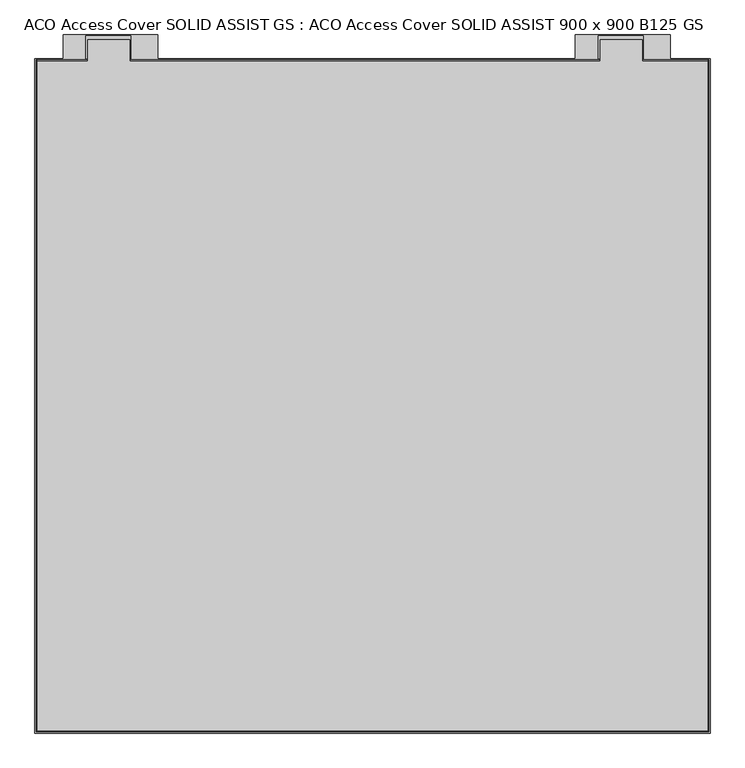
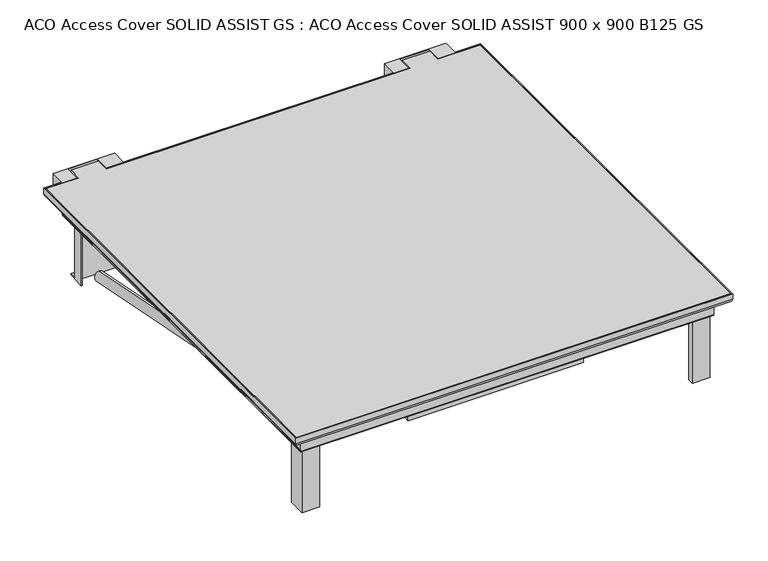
"""IFC4 building model written with IfcOpenShell, lengths in millimetres: proxy geometry, ACO Access Cover SOLID ASSIST GS : ACO Access Cover SOLID ASSIST 900 x 900 B125 GS."""

from ifc_helpers import new_model, si_unit, point, frame, origin, origin_2d, place, context, project, spatial, polyline, circle_curve, ellipse_curve, trimmed, segment, composite_curve, outline, extrude, source, transform, mapped, element, save
from ifc_brep_helpers import plane_surface, cylinder_surface, revolved_surface, advanced_brep


def aco_access_cover_solid_assist_gs_aco_access_cover_solid_656c4046(model_context):
    return source(origin(), model_context, "Body", "SolidModel", [
        extrude(outline(polyline([(494.5, 494.0), (494.5, -494.0), (-494.5, -494.0), (-494.5, 494.0), (-420.0, 494.0), (-420.0, 525.0), (-358.0, 525.0), (-358.0, 494.0), (336.0, 494.0), (336.0, 525.0), (398.0, 525.0), (398.0, 494.0), (494.5, 494.0)])), frame((0.0, 0.0, -5.0), z_axis=(0.0, 0.0, 1.0), x_axis=(1.0, 0.0, 0.0)), (0.0, 0.0, 1.0), 5.0),
        extrude(outline(composite_curve([segment(trimmed(circle_curve(origin_2d(), 11.4552822), [point((0.0, 11.4552822))], [point((0.0, -11.4552822))], False, "CARTESIAN"), True, "CONTINUOUS"), segment(trimmed(circle_curve(origin_2d(), 11.4552822), [point((0.0, -11.4552822))], [point((0.0, 11.4552822))], False, "CARTESIAN"), True, "CONTINUOUS")], self_intersect=False)), frame((-411.9, 425.5, -198.5), z_axis=(0.0, -0.9809579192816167, 0.19422039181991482), x_axis=(1.0, 0.0, 0.0)), (0.0, 0.0, 1.0), 862.4223153),
        advanced_brep(
        [(498.0, 497.5, -12.5), (498.0, 497.5, 0.0), (498.0, -497.5, 0.0), (498.0, -497.5, -12.5), (482.0, -481.5, -12.5), (482.0, 481.5, -12.5), (471.0, -470.5, -12.5), (471.0, 470.5, -12.5), (471.0, -470.5, -56.0), (471.0, 470.5, -56.0), (467.0, -466.5, -60.0), (467.0, 466.5, -60.0), (451.9, 451.4, -58.0), (451.9, 451.4, -60.0), (451.9, 427.4, -60.0), (451.9, 427.4, -210.0), (451.9, 424.4, -210.0), (451.9, 424.4, -60.0), (451.9, -424.4, -60.0), (451.9, -424.4, -210.0), (451.9, -427.4, -210.0), (451.9, -427.4, -60.0), (451.9, -451.4, -60.0), (451.9, -451.4, -58.0), (469.0, 468.5, -56.0), (467.0, 466.5, -58.0), (467.0, -466.5, -58.0), (469.0, -468.5, -56.0), (469.0, -468.5, -12.5), (469.0, 468.5, -12.5), (484.0, -483.5, -12.5), (484.0, 483.5, -12.5), (496.0, -495.5, -12.5), (496.0, 495.5, -12.5), (496.0, -495.5, 0.0), (496.0, 495.5, 0.0), (-498.0, -497.5, 0.0), (-498.0, -497.5, -12.5), (-482.0, -481.5, -12.5), (-471.0, -470.5, -12.5), (-471.0, -470.5, -56.0), (-467.0, -466.5, -60.0), (427.9, -451.4, -60.0), (427.9, -451.4, -210.0), (424.9, -451.4, -210.0), (424.9, -451.4, -60.0), (-424.9, -451.4, -60.0), (-424.9, -451.4, -210.0), (-427.9, -451.4, -210.0), (-427.9, -451.4, -60.0), (-451.9, -451.4, -60.0), (-451.9, -451.4, -58.0), (-467.0, -466.5, -58.0), (-469.0, -468.5, -56.0), (-469.0, -468.5, -12.5), (-397.5, -468.5, -12.5), (-397.5, -468.5, -55.0), (-351.5, -468.5, -55.0), (-351.5, -468.5, -12.5), (351.5, -468.5, -12.5), (351.5, -468.5, -55.0), (397.5, -468.5, -55.0), (397.5, -468.5, -12.5), (-484.0, -483.5, -12.5), (-496.0, -495.5, -12.5), (-496.0, -495.5, 0.0), (-498.0, 497.5, 0.0), (-498.0, 497.5, -12.5), (-482.0, 481.5, -12.5), (-471.0, 470.5, -12.5), (-471.0, 470.5, -56.0), (-467.0, 466.5, -60.0), (-451.9, -427.4, -60.0), (-451.9, -427.4, -210.0), (-451.9, -424.4, -210.0), (-451.9, -424.4, -60.0), (-451.9, 425.4, -60.0), (-451.9, 425.4, -207.0), (-451.9, 450.4, -207.0), (-451.9, 450.4, -60.0), (-451.9, 451.4, -60.0), (-451.9, 451.4, -58.0), (-467.0, 466.5, -58.0), (-469.0, 468.5, -56.0), (-469.0, 468.5, -12.5), (-484.0, 483.5, -12.5), (-496.0, 495.5, -12.5), (-496.0, 495.5, 0.0), (439.5, 497.5, 0.0), (439.5, 532.5, 0.0), (299.5, 532.5, 0.0), (299.5, 497.5, 0.0), (-316.5, 497.5, 0.0), (-316.5, 532.5, 0.0), (-456.5, 532.5, 0.0), (-456.5, 497.5, 0.0), (-423.0, 495.5, 0.0), (-423.0, 531.0, 0.0), (-356.5, 531.0, 0.0), (-356.5, 495.5, 0.0), (333.0, 495.5, 0.0), (333.0, 531.0, 0.0), (399.5, 531.0, 0.0), (399.5, 495.5, 0.0), (-456.5, 497.5, -12.5), (439.5, 497.5, -12.5), (299.5, 497.5, -12.5), (-316.5, 497.5, -12.5), (-423.0, 497.5, -12.5), (-423.0, 495.5, -17.7915026), (-356.5, 495.5, -17.7915026), (-356.5, 497.5, -12.5), (333.0, 497.5, -12.5), (333.0, 495.5, -17.7915026), (399.5, 495.5, -17.7915026), (399.5, 497.5, -12.5), (-322.0, 470.5, -56.0), (-322.0, 470.5, -34.0), (-326.0, 470.5, -34.0), (-326.0, 470.5, -56.0), (-412.0, 470.5, -56.0), (-412.0, 470.5, -34.0), (-416.0, 470.5, -34.0), (-416.0, 470.5, -56.0), (430.5, 470.5, -34.0), (430.5, 470.5, -55.5), (434.5, 470.5, -55.5), (434.5, 470.5, -34.0), (340.5, 470.5, -34.0000027), (340.5, 470.5, -55.5000027), (344.5, 470.5, -55.5000037), (344.5, 470.5, -34.0000027), (-416.0, 466.5, -60.0), (-322.0, 466.5, -60.0), (-412.0, 466.5, -60.0), (-326.0, 466.5, -60.0), (427.9, 451.4, -60.0), (427.9, 461.4, -60.0), (461.9, 461.4, -60.0), (461.9, 427.4, -60.0), (461.9, -427.4, -60.0), (461.9, -461.4, -60.0), (427.9, -461.4, -60.0), (-427.9, -461.4, -60.0), (-461.9, -461.4, -60.0), (-461.9, -427.4, -60.0), (-416.0, 452.4, -60.0), (-453.9, 452.4, -60.0), (-453.9, 425.4, -60.0), (-464.9, -424.4, -60.0), (-464.9, -464.4, -60.0), (-424.9, -464.4, -60.0), (424.9, -464.4, -60.0), (464.9, -464.4, -60.0), (464.9, -424.4, -60.0), (464.9, 424.4, -60.0), (464.9, 464.4, -60.0), (424.9, 464.4, -60.0), (424.9, 451.4, -60.0), (-316.9, 451.4, -60.0), (-316.9, 452.4, -60.0), (-322.0, 452.4, -60.0), (-412.0, 452.4, -60.0), (-326.0, 452.4, -60.0), (424.9, 451.4, -210.0), (427.9, 451.4, -210.0), (399.5, 495.5, -12.5), (333.0, 495.5, -12.5), (-356.5, 495.5, -12.5), (-423.0, 495.5, -12.5), (399.5, 531.0, -31.0), (333.0, 531.0, -31.0), (333.0, 497.5, -31.0), (399.5, 497.5, -31.0), (-356.5, 531.0, -31.0), (-423.0, 531.0, -31.0), (-423.0, 497.5, -31.0), (-356.5, 497.5, -31.0), (-464.9, -424.4, -210.0), (-461.9, -427.4, -210.0), (-461.9, -461.4, -210.0), (-427.9, -461.4, -210.0), (-424.9, -464.4, -210.0), (-464.9, -464.4, -210.0), (464.9, -424.4, -210.0), (464.9, -464.4, -210.0), (424.9, -464.4, -210.0), (427.9, -461.4, -210.0), (461.9, -461.4, -210.0), (461.9, -427.4, -210.0), (464.9, 424.4, -210.0), (461.9, 427.4, -210.0), (461.9, 461.4, -210.0), (427.9, 461.4, -210.0), (424.9, 464.4, -210.0), (464.9, 464.4, -210.0), (-456.5, 497.5, -34.0), (-456.5, 532.5, -34.0), (-316.5, 532.5, -34.0), (-316.5, 497.5, -34.0), (-322.0, 497.5, -34.0), (-322.0, 523.9, -34.0), (-326.0, 523.9, -34.0), (-326.0, 497.5, -34.0), (-412.0, 497.5, -34.0), (-412.0, 523.9, -34.0), (-416.0, 523.9, -34.0), (-416.0, 497.5, -34.0), (299.5, 497.5, -34.0), (299.5, 532.5, -34.0), (439.5, 532.5, -34.0), (439.5, 497.5, -34.0), (434.5, 497.5, -34.0), (434.5, 524.0, -34.0), (430.5, 524.0, -34.0), (430.5, 497.5, -34.0), (344.5, 497.5, -34.0), (344.5, 524.0000077, -34.0), (340.5, 524.0000077, -34.0), (340.5, 497.5, -34.0), (430.5, 524.0, -49.0), (430.5, 509.1806559, -46.771067), (430.5, 507.9745716, -36.8440654), (430.5, 483.1570676, -39.8592762), (430.5, 484.3631519, -49.7862777), (434.5, 524.0, -49.0), (434.5, 509.1806559, -46.771067), (434.5, 484.3631519, -49.7862777), (434.5, 483.1570676, -39.8592762), (434.5, 507.9745716, -36.8440654), (340.5, 524.0000077, -49.0000027), (340.5, 509.1806636, -46.7710697), (340.5, 507.9745793, -36.8440681), (340.5, 483.1570753, -39.8592789), (340.5, 484.3631596, -49.7862805), (344.5, 524.0000077, -49.0000027), (344.5, 509.1806636, -46.7710697), (344.5, 484.3631596, -49.7862805), (344.5, 483.1570753, -39.8592789), (344.5, 507.9745793, -36.8440681), (-449.9, 450.4, -210.0), (-449.9, 472.4, -210.0), (-316.9, 472.4, -210.0), (-316.9, 450.4, -210.0), (-316.9, 472.4, -207.0), (-449.9, 472.4, -207.0), (-449.9, 452.4, -207.0), (-316.9, 452.4, -207.0), (-316.9, 450.4, -60.0), (-449.9, 450.4, -207.0), (-453.9, 425.4, -207.0), (-453.9, 452.4, -207.0), (-416.0, 452.4, -206.5), (-412.0, 452.4, -206.5), (-326.0, 452.4, -206.5), (-322.0, 452.4, -206.5), (-412.0, 467.4, -206.5), (-412.0, 523.9, -82.0), (-412.0, 483.6059623, -134.492034), (-412.0, 465.3936264, -126.226998), (-412.0, 488.1224754, -76.1430742), (-412.0, 506.3348113, -84.4081102), (-416.0, 523.9, -82.0), (-416.0, 467.4, -206.5), (-416.0, 483.6059623, -134.492034), (-416.0, 506.3348113, -84.4081102), (-416.0, 488.1224754, -76.1430742), (-416.0, 465.3936264, -126.226998), (-322.0, 523.9, -82.0), (-322.0, 467.4, -206.5), (-322.0, 483.6059623, -134.492034), (-322.0, 465.3936264, -126.226998), (-322.0, 488.1224754, -76.1430742), (-322.0, 506.3348113, -84.4081102), (-326.0, 523.9, -82.0), (-326.0, 467.4, -206.5), (-326.0, 483.6059623, -134.492034), (-326.0, 506.3348113, -84.4081102), (-326.0, 488.1224754, -76.1430742), (-326.0, 465.3936264, -126.226998), (-351.5, -438.5, -55.0), (-397.5, -438.5, -55.0), (397.5, -438.5, -55.0), (351.5, -438.5, -55.0), (-351.5, -438.5, -5.0), (-397.5, -438.5, -5.0), (-397.5, -468.5, -5.0), (-351.5, -468.5, -5.0), (397.5, -438.5, -5.0), (351.5, -438.5, -5.0), (351.5, -468.5, -5.0), (397.5, -468.5, -5.0)],
        [
            (0, 1),
            (1, 2),
            (2, 3),
            (3, 0),
            (3, 4, ellipse_curve(frame((490.0, -489.5, -12.5), z_axis=(0.7071067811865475, 0.7071067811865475, 0.0), x_axis=(-0.7071067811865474, 0.7071067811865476, 0.0)), 11.3137085, 8.0)),
            (4, 5),
            (5, 0, ellipse_curve(frame((490.0, 489.5, -12.5), z_axis=(0.7071067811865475, -0.7071067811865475, 0.0), x_axis=(0.7071067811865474, 0.7071067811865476, 0.0)), 11.3137085, 8.0)),
            (4, 6, ellipse_curve(frame((476.5, -476.0, -12.5), z_axis=(-0.7071067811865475, -0.7071067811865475, 0.0), x_axis=(0.7071067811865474, -0.7071067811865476, 0.0)), 7.7781746, 5.5)),
            (6, 7),
            (7, 5, ellipse_curve(frame((476.5, 476.0, -12.5), z_axis=(-0.7071067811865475, 0.7071067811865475, 0.0), x_axis=(-0.7071067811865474, -0.7071067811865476, 0.0)), 7.7781746, 5.5)),
            (6, 8),
            (8, 9),
            (9, 7),
            (8, 10, ellipse_curve(frame((467.0, -466.5, -56.0), z_axis=(0.7071067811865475, 0.7071067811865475, 0.0), x_axis=(-0.7071067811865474, 0.7071067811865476, 0.0)), 5.6568542, 4.0)),
            (10, 11),
            (11, 9, ellipse_curve(frame((467.0, 466.5, -56.0), z_axis=(0.7071067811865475, -0.7071067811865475, 0.0), x_axis=(0.7071067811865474, 0.7071067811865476, 0.0)), 5.6568542, 4.0)),
            (12, 13),
            (13, 14),
            (14, 15),
            (15, 16),
            (16, 17),
            (17, 18),
            (18, 19),
            (19, 20),
            (20, 21),
            (21, 22),
            (22, 23),
            (23, 12),
            (24, 25, ellipse_curve(frame((467.0, 466.5, -56.0), z_axis=(-0.7071067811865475, 0.7071067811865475, 0.0), x_axis=(-0.7071067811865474, -0.7071067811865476, 0.0)), 2.8284271, 2.0)),
            (25, 26),
            (26, 27, ellipse_curve(frame((467.0, -466.5, -56.0), z_axis=(-0.7071067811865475, -0.7071067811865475, 0.0), x_axis=(0.7071067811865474, -0.7071067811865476, 0.0)), 2.8284271, 2.0)),
            (27, 24),
            (27, 28),
            (28, 29),
            (29, 24),
            (28, 30, ellipse_curve(frame((476.5, -476.0, -12.5), z_axis=(0.7071067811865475, 0.7071067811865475, 0.0), x_axis=(-0.7071067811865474, 0.7071067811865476, 0.0)), 10.6066017, 7.5)),
            (30, 31),
            (31, 29, ellipse_curve(frame((476.5, 476.0, -12.5), z_axis=(0.7071067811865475, -0.7071067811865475, 0.0), x_axis=(0.7071067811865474, 0.7071067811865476, 0.0)), 10.6066017, 7.5)),
            (30, 32, ellipse_curve(frame((490.0, -489.5, -12.5), z_axis=(-0.7071067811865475, -0.7071067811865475, 0.0), x_axis=(0.7071067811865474, -0.7071067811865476, 0.0)), 8.4852814, 6.0)),
            (32, 33),
            (33, 31, ellipse_curve(frame((490.0, 489.5, -12.5), z_axis=(-0.7071067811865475, 0.7071067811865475, 0.0), x_axis=(-0.7071067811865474, -0.7071067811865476, 0.0)), 8.4852814, 6.0)),
            (32, 34),
            (34, 35),
            (35, 33),
            (2, 36),
            (36, 37),
            (37, 3),
            (37, 38, ellipse_curve(frame((-490.0, -489.5, -12.5), z_axis=(0.7071067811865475, -0.7071067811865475, 0.0), x_axis=(0.7071067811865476, 0.7071067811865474, 0.0)), 11.3137085, 8.0)),
            (38, 4),
            (38, 39, ellipse_curve(frame((-476.5, -476.0, -12.5), z_axis=(-0.7071067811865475, 0.7071067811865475, 0.0), x_axis=(-0.7071067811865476, -0.7071067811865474, 0.0)), 7.7781746, 5.5)),
            (39, 6),
            (39, 40),
            (40, 8),
            (40, 41, ellipse_curve(frame((-467.0, -466.5, -56.0), z_axis=(0.7071067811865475, -0.7071067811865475, 0.0), x_axis=(0.7071067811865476, 0.7071067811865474, 0.0)), 5.6568542, 4.0)),
            (41, 10),
            (22, 42),
            (42, 43),
            (43, 44),
            (44, 45),
            (45, 46),
            (46, 47),
            (47, 48),
            (48, 49),
            (49, 50),
            (50, 51),
            (51, 23),
            (26, 52),
            (52, 53, ellipse_curve(frame((-467.0, -466.5, -56.0), z_axis=(-0.7071067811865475, 0.7071067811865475, 0.0), x_axis=(-0.7071067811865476, -0.7071067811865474, 0.0)), 2.8284271, 2.0)),
            (53, 27),
            (53, 54),
            (54, 55),
            (55, 56),
            (56, 57),
            (57, 58),
            (58, 59),
            (59, 60),
            (60, 61),
            (61, 62),
            (62, 28),
            (62, 59),
            (58, 55),
            (54, 63, ellipse_curve(frame((-476.5, -476.0, -12.5), z_axis=(0.7071067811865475, -0.7071067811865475, 0.0), x_axis=(0.7071067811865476, 0.7071067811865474, 0.0)), 10.6066017, 7.5)),
            (63, 30),
            (63, 64, ellipse_curve(frame((-490.0, -489.5, -12.5), z_axis=(-0.7071067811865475, 0.7071067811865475, 0.0), x_axis=(-0.7071067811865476, -0.7071067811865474, 0.0)), 8.4852814, 6.0)),
            (64, 32),
            (64, 65),
            (65, 34),
            (36, 66),
            (66, 67),
            (67, 37),
            (67, 68, ellipse_curve(frame((-490.0, 489.5, -12.5), z_axis=(-0.7071067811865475, -0.7071067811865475, 0.0), x_axis=(0.7071067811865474, -0.7071067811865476, 0.0)), 11.3137085, 8.0)),
            (68, 38),
            (68, 69, ellipse_curve(frame((-476.5, 476.0, -12.5), z_axis=(0.7071067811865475, 0.7071067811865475, 0.0), x_axis=(-0.7071067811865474, 0.7071067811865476, 0.0)), 7.7781746, 5.5)),
            (69, 39),
            (69, 70),
            (70, 40),
            (70, 71, ellipse_curve(frame((-467.0, 466.5, -56.0), z_axis=(-0.7071067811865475, -0.7071067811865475, 0.0), x_axis=(0.7071067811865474, -0.7071067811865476, 0.0)), 5.6568542, 4.0)),
            (71, 41),
            (50, 72),
            (72, 73),
            (73, 74),
            (74, 75),
            (75, 76),
            (76, 77),
            (77, 78),
            (78, 79),
            (79, 80),
            (80, 81),
            (81, 51),
            (52, 82),
            (82, 83, ellipse_curve(frame((-467.0, 466.5, -56.0), z_axis=(0.7071067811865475, 0.7071067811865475, 0.0), x_axis=(-0.7071067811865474, 0.7071067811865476, 0.0)), 2.8284271, 2.0)),
            (83, 53),
            (83, 84),
            (84, 54),
            (84, 85, ellipse_curve(frame((-476.5, 476.0, -12.5), z_axis=(-0.7071067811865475, -0.7071067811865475, 0.0), x_axis=(0.7071067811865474, -0.7071067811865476, 0.0)), 10.6066017, 7.5)),
            (85, 63),
            (85, 86, ellipse_curve(frame((-490.0, 489.5, -12.5), z_axis=(0.7071067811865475, 0.7071067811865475, 0.0), x_axis=(-0.7071067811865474, 0.7071067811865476, 0.0)), 8.4852814, 6.0)),
            (86, 64),
            (86, 87),
            (87, 65),
            (1, 88),
            (88, 89),
            (89, 90),
            (90, 91),
            (91, 92),
            (92, 93),
            (93, 94),
            (94, 95),
            (95, 66),
            (87, 96),
            (96, 97),
            (97, 98),
            (98, 99),
            (99, 100),
            (100, 101),
            (101, 102),
            (102, 103),
            (103, 35),
            (95, 104),
            (104, 67),
            (0, 105),
            (105, 88),
            (91, 106),
            (106, 107),
            (107, 92),
            (5, 68),
            (104, 108),
            (108, 109, circle_curve(frame((-423.0, 489.5, -12.5), z_axis=(-1.0, 0.0, 0.0), x_axis=(0.0, 1.0, 0.0)), 8.0)),
            (109, 110),
            (110, 111, circle_curve(frame((-356.5, 489.5, -12.5), z_axis=(1.0, 0.0, 0.0), x_axis=(0.0, 1.0, 0.0)), 8.0)),
            (111, 107),
            (106, 112),
            (112, 113, circle_curve(frame((333.0, 489.5, -12.5), z_axis=(-1.0, 0.0, 0.0), x_axis=(0.0, 1.0, 0.0)), 8.0)),
            (113, 114),
            (114, 115, circle_curve(frame((399.5, 489.5, -12.5), z_axis=(1.0, 0.0, 0.0), x_axis=(0.0, 1.0, 0.0)), 8.0)),
            (115, 105),
            (7, 69),
            (9, 116),
            (116, 117),
            (117, 118),
            (118, 119),
            (119, 120),
            (120, 121),
            (121, 122),
            (122, 123),
            (123, 70),
            (124, 125),
            (125, 126),
            (126, 127),
            (127, 124),
            (128, 129),
            (129, 130),
            (130, 131),
            (131, 128),
            (123, 132, circle_curve(frame((-416.0, 466.5, -56.0), z_axis=(-1.0, 0.0, 0.0), x_axis=(0.0, 1.0, 0.0)), 4.0)),
            (132, 71),
            (11, 133),
            (133, 116, circle_curve(frame((-322.0, 466.5, -56.0), z_axis=(1.0, 0.0, 0.0), x_axis=(0.0, 1.0, 0.0)), 4.0)),
            (134, 120, circle_curve(frame((-412.0, 466.5, -56.0), z_axis=(1.0, 0.0, 0.0), x_axis=(0.0, 1.0, 0.0)), 4.0)),
            (119, 135, circle_curve(frame((-326.0, 466.5, -56.0), z_axis=(-1.0, 0.0, 0.0), x_axis=(0.0, 1.0, 0.0)), 4.0)),
            (135, 134),
            (13, 136),
            (136, 137),
            (137, 138),
            (138, 139),
            (139, 14),
            (21, 140),
            (140, 141),
            (141, 142),
            (142, 42),
            (49, 143),
            (143, 144),
            (144, 145),
            (145, 72),
            (132, 146),
            (146, 147),
            (147, 148),
            (148, 76),
            (75, 149),
            (149, 150),
            (150, 151),
            (151, 46),
            (45, 152),
            (152, 153),
            (153, 154),
            (154, 18),
            (17, 155),
            (155, 156),
            (156, 157),
            (157, 158),
            (158, 159),
            (159, 160),
            (160, 161),
            (161, 133),
            (162, 134),
            (135, 163),
            (163, 162),
            (12, 81),
            (80, 159),
            (158, 164),
            (164, 165),
            (165, 136),
            (25, 82),
            (24, 83),
            (29, 84),
            (31, 85),
            (33, 166),
            (166, 167),
            (167, 168),
            (168, 169),
            (169, 86),
            (169, 96),
            (99, 168),
            (167, 100),
            (103, 166),
            (170, 171),
            (171, 172),
            (172, 173),
            (173, 170),
            (174, 175),
            (175, 176),
            (176, 177),
            (177, 174),
            (170, 102),
            (101, 171),
            (167, 113),
            (112, 172),
            (166, 114),
            (173, 115),
            (174, 98),
            (97, 175),
            (169, 109),
            (108, 176),
            (168, 110),
            (177, 111),
            (178, 74),
            (73, 179),
            (179, 180),
            (180, 181),
            (181, 48),
            (47, 182),
            (182, 183),
            (183, 178),
            (184, 185),
            (185, 186),
            (186, 44),
            (43, 187),
            (187, 188),
            (188, 189),
            (189, 20),
            (19, 184),
            (190, 16),
            (15, 191),
            (191, 192),
            (192, 193),
            (193, 165),
            (164, 194),
            (194, 195),
            (195, 190),
            (183, 150),
            (149, 178),
            (182, 151),
            (181, 143),
            (180, 144),
            (179, 145),
            (154, 184),
            (189, 140),
            (188, 141),
            (187, 142),
            (186, 152),
            (185, 153),
            (195, 156),
            (155, 190),
            (194, 157),
            (193, 137),
            (192, 138),
            (191, 139),
            (196, 197),
            (197, 198),
            (198, 199),
            (199, 200),
            (200, 201),
            (201, 202),
            (202, 203),
            (203, 204),
            (204, 205),
            (205, 206),
            (206, 207),
            (207, 196),
            (208, 209),
            (209, 210),
            (210, 211),
            (211, 212),
            (212, 213),
            (213, 214),
            (214, 215),
            (215, 216),
            (216, 217),
            (217, 218),
            (218, 219),
            (219, 208),
            (198, 93),
            (107, 199),
            (197, 94),
            (196, 104),
            (207, 204),
            (203, 200),
            (211, 105),
            (106, 208),
            (219, 216),
            (215, 212),
            (210, 89),
            (209, 90),
            (214, 220),
            (220, 125),
            (124, 215),
            (221, 222, circle_curve(frame((430.5, 508.5776137, -41.8075662), z_axis=(1.0, 0.0, 0.0), x_axis=(0.0, 1.0, 0.0)), 5.0)),
            (222, 223),
            (223, 224, circle_curve(frame((430.5, 483.7601097, -44.8227769), z_axis=(1.0, 0.0, 0.0), x_axis=(0.0, 1.0, 0.0)), 5.0)),
            (224, 221),
            (126, 225),
            (225, 213),
            (212, 127),
            (226, 227),
            (227, 228, circle_curve(frame((434.5, 483.7601097, -44.8227769), z_axis=(-1.0, 0.0, 0.0), x_axis=(0.0, 1.0, 0.0)), 5.0)),
            (228, 229),
            (229, 226, circle_curve(frame((434.5, 508.5776137, -41.8075662), z_axis=(-1.0, 0.0, 0.0), x_axis=(0.0, 1.0, 0.0)), 5.0)),
            (220, 225),
            (224, 227),
            (226, 221),
            (223, 228),
            (222, 229),
            (218, 230),
            (230, 129),
            (128, 219),
            (231, 232, circle_curve(frame((340.5, 508.5776215, -41.8075689), z_axis=(1.0, 0.0, 0.0), x_axis=(0.0, 1.0, 0.0)), 5.0)),
            (232, 233),
            (233, 234, circle_curve(frame((340.5, 483.7601175, -44.8227797), z_axis=(1.0, 0.0, 0.0), x_axis=(0.0, 1.0, 0.0)), 5.0)),
            (234, 231),
            (130, 235),
            (235, 217),
            (216, 131),
            (236, 237),
            (237, 238, circle_curve(frame((344.5, 483.7601175, -44.8227797), z_axis=(-1.0, 0.0, 0.0), x_axis=(0.0, 1.0, 0.0)), 5.0)),
            (238, 239),
            (239, 236, circle_curve(frame((344.5, 508.5776215, -41.8075689), z_axis=(-1.0, 0.0, 0.0), x_axis=(0.0, 1.0, 0.0)), 5.0)),
            (230, 235),
            (234, 237),
            (236, 231),
            (233, 238),
            (232, 239),
            (240, 241),
            (241, 242),
            (242, 243),
            (243, 240),
            (244, 245),
            (245, 246),
            (246, 247),
            (247, 244),
            (243, 248),
            (248, 79),
            (78, 249),
            (249, 240),
            (242, 244),
            (247, 160),
            (159, 248),
            (241, 245),
            (249, 246),
            (77, 250),
            (250, 251),
            (251, 246),
            (250, 148),
            (147, 251),
            (146, 252),
            (252, 253),
            (253, 162),
            (163, 254),
            (254, 255),
            (255, 161),
            (253, 256),
            (256, 257),
            (257, 205),
            (204, 121),
            (258, 259, circle_curve(frame((-412.0, 474.4997944, -130.359516), z_axis=(-1.0, 0.0, 0.0), x_axis=(0.0, 1.0, 0.0)), 10.0)),
            (259, 260),
            (260, 261, circle_curve(frame((-412.0, 497.2286433, -80.2755922), z_axis=(-1.0, 0.0, 0.0), x_axis=(0.0, 1.0, 0.0)), 10.0)),
            (261, 258),
            (206, 262),
            (262, 263),
            (263, 252),
            (122, 207),
            (264, 265),
            (265, 266, circle_curve(frame((-416.0, 497.2286433, -80.2755922), z_axis=(1.0, 0.0, 0.0), x_axis=(0.0, 1.0, 0.0)), 10.0)),
            (266, 267),
            (267, 264, circle_curve(frame((-416.0, 474.4997944, -130.359516), z_axis=(1.0, 0.0, 0.0), x_axis=(0.0, 1.0, 0.0)), 10.0)),
            (263, 256),
            (262, 257),
            (258, 264),
            (267, 259),
            (266, 260),
            (265, 261),
            (268, 201),
            (200, 117),
            (255, 269),
            (269, 268),
            (270, 271, circle_curve(frame((-322.0, 474.4997944, -130.359516), z_axis=(-1.0, 0.0, 0.0), x_axis=(0.0, 1.0, 0.0)), 10.0)),
            (271, 272),
            (272, 273, circle_curve(frame((-322.0, 497.2286433, -80.2755922), z_axis=(-1.0, 0.0, 0.0), x_axis=(0.0, 1.0, 0.0)), 10.0)),
            (273, 270),
            (274, 275),
            (275, 254),
            (118, 203),
            (202, 274),
            (276, 277),
            (277, 278, circle_curve(frame((-326.0, 497.2286433, -80.2755922), z_axis=(1.0, 0.0, 0.0), x_axis=(0.0, 1.0, 0.0)), 10.0)),
            (278, 279),
            (279, 276, circle_curve(frame((-326.0, 474.4997944, -130.359516), z_axis=(1.0, 0.0, 0.0), x_axis=(0.0, 1.0, 0.0)), 10.0)),
            (268, 274),
            (275, 269),
            (270, 276),
            (279, 271),
            (278, 272),
            (277, 273),
            (280, 57),
            (56, 281),
            (281, 280),
            (282, 61),
            (60, 283),
            (283, 282),
            (284, 285),
            (285, 286),
            (286, 287),
            (287, 284),
            (288, 289),
            (289, 290),
            (290, 291),
            (291, 288),
            (281, 285),
            (284, 280),
            (55, 286),
            (58, 287),
            (283, 289),
            (288, 282),
            (59, 290),
            (62, 291),
        ],
        [
            plane_surface(frame((498.0, 497.5, 0.0), z_axis=(1.0, 0.0, 0.0), x_axis=(0.0, -1.0, 0.0))),
            cylinder_surface(frame((490.0, 497.5, -12.5), z_axis=(0.0, 1.0, 0.0), x_axis=(1.0, 0.0, 0.0)), 8.0),
            revolved_surface(polyline([(482.0, -481.500000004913, -12.5), (482.0, 481.500000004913, -12.5)]), (476.5, 497.5, -12.5), (0.0, -1.0, 0.0)),
            plane_surface(frame((471.0, 470.5, -12.5), z_axis=(1.0, 0.0, 0.0), x_axis=(0.0, -1.0, 0.0))),
            cylinder_surface(frame((467.0, 497.5, -56.0), z_axis=(0.0, 1.0, 0.0), x_axis=(1.0, 0.0, 0.0)), 4.0),
            plane_surface(frame((451.9, 451.4, -60.0), z_axis=(-1.0, 0.0, 0.0), x_axis=(0.0, -1.0, 0.0))),
            revolved_surface(polyline([(469.0, -468.5, -56.0), (469.0, 468.5, -56.0)]), (467.0, 497.5, -56.0), (0.0, -1.0, 0.0)),
            plane_surface(frame((469.0, 468.5, -56.0), z_axis=(-1.0, 0.0, 0.0), x_axis=(0.0, -1.0, 0.0))),
            cylinder_surface(frame((476.5, 497.5, -12.5), z_axis=(0.0, 1.0, 0.0), x_axis=(1.0, 0.0, 0.0)), 7.5),
            revolved_surface(polyline([(496.0, -495.50000001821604, -12.5), (496.0, 495.5000000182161, -12.5)]), (490.0, 497.5, -12.5), (0.0, -1.0, 0.0)),
            plane_surface(frame((496.0, 495.5, -12.5), z_axis=(-1.0, 0.0, 0.0), x_axis=(0.0, -1.0, 0.0))),
            plane_surface(frame((498.0, -497.5, 0.0), z_axis=(0.0, -1.0, 0.0), x_axis=(-1.0, 0.0, 0.0))),
            cylinder_surface(frame((498.0, -489.5, -12.5), z_axis=(1.0, 0.0, 0.0), x_axis=(0.0, -1.0, 0.0)), 8.0),
            revolved_surface(polyline([(-482.000000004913, -481.5, -12.5), (482.000000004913, -481.5, -12.5)]), (498.0, -476.0, -12.5), (-1.0, 0.0, 0.0)),
            plane_surface(frame((471.0, -470.5, -12.5), z_axis=(0.0, -1.0, 0.0), x_axis=(-1.0, 0.0, 0.0))),
            cylinder_surface(frame((498.0, -466.5, -56.0), z_axis=(1.0, 0.0, 0.0), x_axis=(0.0, -1.0, 0.0)), 4.0),
            plane_surface(frame((451.9, -451.4, -60.0), z_axis=(0.0, 1.0, 0.0), x_axis=(-1.0, 0.0, 0.0))),
            revolved_surface(polyline([(-469.0, -468.5, -56.0), (469.0, -468.5, -56.0)]), (498.0, -466.5, -56.0), (-1.0, 0.0, 0.0)),
            plane_surface(frame((469.0, -468.5, -56.0), z_axis=(0.0, 1.0, 0.0), x_axis=(-1.0, 0.0, 0.0))),
            cylinder_surface(frame((498.0, -476.0, -12.5), z_axis=(1.0, 0.0, 0.0), x_axis=(0.0, -1.0, 0.0)), 7.5),
            revolved_surface(polyline([(-496.00000001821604, -495.5, -12.5), (496.0000000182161, -495.5, -12.5)]), (498.0, -489.5, -12.5), (-1.0, 0.0, 0.0)),
            plane_surface(frame((496.0, -495.5, -12.5), z_axis=(0.0, 1.0, 0.0), x_axis=(-1.0, 0.0, 0.0))),
            plane_surface(frame((-498.0, -497.5, 0.0), z_axis=(-1.0, 0.0, 0.0), x_axis=(0.0, 1.0, 0.0))),
            cylinder_surface(frame((-490.0, -497.5, -12.5), z_axis=(0.0, -1.0, 0.0), x_axis=(-1.0, 0.0, 0.0)), 8.0),
            revolved_surface(polyline([(-482.0, 481.500000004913, -12.5), (-482.0, -481.500000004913, -12.5)]), (-476.5, -497.5, -12.5), (0.0, 1.0, 0.0)),
            plane_surface(frame((-471.0, -470.5, -12.5), z_axis=(-1.0, 0.0, 0.0), x_axis=(0.0, 1.0, 0.0))),
            cylinder_surface(frame((-467.0, -497.5, -56.0), z_axis=(0.0, -1.0, 0.0), x_axis=(-1.0, 0.0, 0.0)), 4.0),
            plane_surface(frame((-451.9, -451.4, -60.0), z_axis=(1.0, 0.0, 0.0), x_axis=(0.0, 1.0, 0.0))),
            revolved_surface(polyline([(-469.0, 468.5, -56.0), (-469.0, -468.5, -56.0)]), (-467.0, -497.5, -56.0), (0.0, 1.0, 0.0)),
            plane_surface(frame((-469.0, -468.5, -56.0), z_axis=(1.0, 0.0, 0.0), x_axis=(0.0, 1.0, 0.0))),
            cylinder_surface(frame((-476.5, -497.5, -12.5), z_axis=(0.0, -1.0, 0.0), x_axis=(-1.0, 0.0, 0.0)), 7.5),
            revolved_surface(polyline([(-496.0, 495.50000001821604, -12.5), (-496.0, -495.5000000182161, -12.5)]), (-490.0, -497.5, -12.5), (0.0, 1.0, 0.0)),
            plane_surface(frame((-496.0, -495.5, -12.5), z_axis=(1.0, 0.0, 0.0), x_axis=(0.0, 1.0, 0.0))),
            plane_surface(frame((-496.0, 495.5, 0.0), z_axis=(0.0, 0.0, 1.0), x_axis=(1.0, 0.0, 0.0))),
            plane_surface(frame((-498.0, 497.5, 0.0), z_axis=(0.0, 1.0, 0.0), x_axis=(1.0, 0.0, 0.0))),
            cylinder_surface(frame((-498.0, 489.5, -12.5), z_axis=(-1.0, 0.0, 0.0), x_axis=(0.0, 1.0, 0.0)), 8.0),
            revolved_surface(polyline([(482.000000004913, 481.5, -12.5), (-482.000000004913, 481.5, -12.5)]), (-498.0, 476.0, -12.5), (1.0, 0.0, 0.0)),
            plane_surface(frame((-471.0, 470.5, -12.5), z_axis=(0.0, 1.0, 0.0), x_axis=(1.0, 0.0, 0.0))),
            cylinder_surface(frame((-498.0, 466.5, -56.0), z_axis=(-1.0, 0.0, 0.0), x_axis=(0.0, 1.0, 0.0)), 4.0),
            plane_surface(frame((-467.0, 466.5, -60.0), z_axis=(0.0, 0.0, -1.0), x_axis=(1.0, 0.0, 0.0))),
            plane_surface(frame((-451.9, 451.4, -60.0), z_axis=(0.0, -1.0, 0.0), x_axis=(1.0, 0.0, 0.0))),
            plane_surface(frame((-451.9, 451.4, -58.0), z_axis=(0.0, 0.0, 1.0), x_axis=(1.0, 0.0, 0.0))),
            revolved_surface(polyline([(469.0, 468.5, -56.0), (-469.0, 468.5, -56.0)]), (-498.0, 466.5, -56.0), (1.0, 0.0, 0.0)),
            plane_surface(frame((-469.0, 468.5, -56.0), z_axis=(0.0, -1.0, 0.0), x_axis=(1.0, 0.0, 0.0))),
            cylinder_surface(frame((-498.0, 476.0, -12.5), z_axis=(-1.0, 0.0, 0.0), x_axis=(0.0, 1.0, 0.0)), 7.5),
            revolved_surface(polyline([(496.00000001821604, 495.5, -12.5), (-496.0000000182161, 495.5, -12.5)]), (-498.0, 489.5, -12.5), (1.0, 0.0, 0.0)),
            plane_surface(frame((-496.0, 495.5, -12.5), z_axis=(0.0, -1.0, 0.0), x_axis=(1.0, 0.0, 0.0))),
            plane_surface(frame((333.0, 531.0, -31.0), z_axis=(0.0, 0.0, 1.0), x_axis=(1.0, 0.0, 0.0))),
            plane_surface(frame((399.5, 531.0, 0.0), z_axis=(0.0, -1.0, 0.0), x_axis=(0.0, 0.0, -1.0))),
            plane_surface(frame((333.0, 531.0, 0.0), z_axis=(1.0, 0.0, 0.0), x_axis=(0.0, 0.0, -1.0))),
            plane_surface(frame((333.0, 495.5, 0.0), z_axis=(0.0, 1.0, 0.0), x_axis=(0.0, 0.0, -1.0))),
            plane_surface(frame((399.5, 495.5, 0.0), z_axis=(-1.0, 0.0, 0.0), x_axis=(0.0, 0.0, -1.0))),
            plane_surface(frame((-356.5, 531.0, 0.0), z_axis=(0.0, -1.0, 0.0), x_axis=(0.0, 0.0, -1.0))),
            plane_surface(frame((-423.0, 531.0, 0.0), z_axis=(1.0, 0.0, 0.0), x_axis=(0.0, 0.0, -1.0))),
            plane_surface(frame((-423.0, 495.5, 0.0), z_axis=(0.0, 1.0, 0.0), x_axis=(0.0, 0.0, -1.0))),
            plane_surface(frame((-356.5, 495.5, 0.0), z_axis=(-1.0, 0.0, 0.0), x_axis=(0.0, 0.0, -1.0))),
            plane_surface(frame((-464.9, -424.4, -210.0), z_axis=(0.0, 0.0, -1.0), x_axis=(0.0, 1.0, 0.0))),
            plane_surface(frame((-464.9, -424.4, -60.0), z_axis=(-1.0, 0.0, 0.0), x_axis=(0.0, 0.0, -1.0))),
            plane_surface(frame((-464.9, -464.4, -60.0), z_axis=(0.0, -1.0, 0.0), x_axis=(0.0, 0.0, -1.0))),
            plane_surface(frame((-424.9, -464.4, -60.0), z_axis=(1.0, 0.0, 0.0), x_axis=(0.0, 0.0, -1.0))),
            plane_surface(frame((-427.9, -451.4, -60.0), z_axis=(-1.0, 0.0, 0.0), x_axis=(0.0, 0.0, -1.0))),
            plane_surface(frame((-427.9, -461.4, -60.0), z_axis=(0.0, 1.0, 0.0), x_axis=(0.0, 0.0, -1.0))),
            plane_surface(frame((-461.9, -461.4, -60.0), z_axis=(1.0, 0.0, 0.0), x_axis=(0.0, 0.0, -1.0))),
            plane_surface(frame((-461.9, -427.4, -60.0), z_axis=(0.0, -1.0, 0.0), x_axis=(0.0, 0.0, -1.0))),
            plane_surface(frame((-451.9, -424.4, -60.0), z_axis=(0.0, 1.0, 0.0), x_axis=(0.0, 0.0, -1.0))),
            plane_surface(frame((464.9, -424.4, -60.0), z_axis=(0.0, 1.0, 0.0), x_axis=(0.0, 0.0, -1.0))),
            plane_surface(frame((451.9, -427.4, -60.0), z_axis=(0.0, -1.0, 0.0), x_axis=(0.0, 0.0, -1.0))),
            plane_surface(frame((461.9, -427.4, -60.0), z_axis=(-1.0, 0.0, 0.0), x_axis=(0.0, 0.0, -1.0))),
            plane_surface(frame((461.9, -461.4, -60.0), z_axis=(0.0, 1.0, 0.0), x_axis=(0.0, 0.0, -1.0))),
            plane_surface(frame((427.9, -461.4, -60.0), z_axis=(1.0, 0.0, 0.0), x_axis=(0.0, 0.0, -1.0))),
            plane_surface(frame((424.9, -451.4, -60.0), z_axis=(-1.0, 0.0, 0.0), x_axis=(0.0, 0.0, -1.0))),
            plane_surface(frame((424.9, -464.4, -60.0), z_axis=(0.0, -1.0, 0.0), x_axis=(0.0, 0.0, -1.0))),
            plane_surface(frame((464.9, -464.4, -60.0), z_axis=(1.0, 0.0, 0.0), x_axis=(0.0, 0.0, -1.0))),
            plane_surface(frame((464.9, 424.4, -60.0), z_axis=(1.0, 0.0, 0.0), x_axis=(0.0, 0.0, -1.0))),
            plane_surface(frame((464.9, 464.4, -60.0), z_axis=(0.0, 1.0, 0.0), x_axis=(0.0, 0.0, -1.0))),
            plane_surface(frame((424.9, 464.4, -60.0), z_axis=(-1.0, 0.0, 0.0), x_axis=(0.0, 0.0, -1.0))),
            plane_surface(frame((427.9, 451.4, -60.0), z_axis=(1.0, 0.0, 0.0), x_axis=(0.0, 0.0, -1.0))),
            plane_surface(frame((427.9, 461.4, -60.0), z_axis=(0.0, -1.0, 0.0), x_axis=(0.0, 0.0, -1.0))),
            plane_surface(frame((461.9, 461.4, -60.0), z_axis=(-1.0, 0.0, 0.0), x_axis=(0.0, 0.0, -1.0))),
            plane_surface(frame((461.9, 427.4, -60.0), z_axis=(0.0, 1.0, 0.0), x_axis=(0.0, 0.0, -1.0))),
            plane_surface(frame((451.9, 424.4, -60.0), z_axis=(0.0, -1.0, 0.0), x_axis=(0.0, 0.0, -1.0))),
            plane_surface(frame((-316.5, 497.5, -34.0), z_axis=(0.0, 0.0, -1.0), x_axis=(0.0, -1.0, 0.0))),
            plane_surface(frame((-316.5, 497.5, 0.0), z_axis=(1.0, 0.0, 0.0), x_axis=(0.0, 0.0, -1.0))),
            plane_surface(frame((-316.5, 532.5, 0.0), z_axis=(0.0, 1.0, 0.0), x_axis=(0.0, 0.0, -1.0))),
            plane_surface(frame((-456.5, 532.5, 0.0), z_axis=(-1.0, 0.0, 0.0), x_axis=(0.0, 0.0, -1.0))),
            plane_surface(frame((-456.5, 497.5, 0.0), z_axis=(0.0, -1.0, 0.0), x_axis=(0.0, 0.0, -1.0))),
            plane_surface(frame((299.5, 497.5, 0.0), z_axis=(0.0, -1.0, 0.0), x_axis=(0.0, 0.0, -1.0))),
            plane_surface(frame((439.5, 497.5, 0.0), z_axis=(1.0, 0.0, 0.0), x_axis=(0.0, 0.0, -1.0))),
            plane_surface(frame((439.5, 532.5, 0.0), z_axis=(0.0, 1.0, 0.0), x_axis=(0.0, 0.0, -1.0))),
            plane_surface(frame((299.5, 532.5, 0.0), z_axis=(-1.0, 0.0, 0.0), x_axis=(0.0, 0.0, -1.0))),
            plane_surface(frame((430.5, 470.5, -34.0), z_axis=(-1.0, 0.0, 0.0), x_axis=(0.0, 1.0, 0.0))),
            plane_surface(frame((434.5, 470.5, -34.0), z_axis=(1.0, 0.0, 0.0), x_axis=(0.0, -1.0, 0.0))),
            plane_surface(frame((434.5, 524.0, -34.0), z_axis=(0.0, 0.0, 1.0), x_axis=(-1.0, 0.0, 0.0))),
            plane_surface(frame((434.5, 470.5, -55.5), z_axis=(0.0, 0.12060843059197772, -0.9927001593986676), x_axis=(-1.0, 0.0, 0.0))),
            plane_surface(frame((434.5, 524.0, -49.0), z_axis=(0.0, 1.0, 0.0), x_axis=(-1.0, 0.0, 0.0))),
            plane_surface(frame((434.5, 509.1806559, -46.771067), z_axis=(0.0, -0.12060843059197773, 0.9927001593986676), x_axis=(-1.0, 0.0, 0.0))),
            revolved_surface(polyline([(430.5, 488.7601097, -44.8227769), (434.5, 488.7601097, -44.8227769)]), (25.0, 483.7601097, -44.8227769), (-1.0, 0.0, 0.0)),
            plane_surface(frame((434.5, 483.1570676, -39.8592762), z_axis=(0.0, 0.12060843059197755, -0.9927001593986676), x_axis=(-1.0, 0.0, 0.0))),
            revolved_surface(polyline([(430.5, 513.5776137, -41.8075662), (434.5, 513.5776137, -41.8075662)]), (25.0, 508.5776137, -41.8075662), (-1.0, 0.0, 0.0)),
            plane_surface(frame((340.5, 470.5000077, -34.0000027), z_axis=(-1.0, 0.0, 0.0), x_axis=(0.0, 1.0, 0.0))),
            plane_surface(frame((344.5, 470.5000077, -34.0000027), z_axis=(1.0, 0.0, 0.0), x_axis=(0.0, -1.0, 0.0))),
            plane_surface(frame((344.5, 524.0000077, -34.0000027), z_axis=(0.0, 0.0, 1.0), x_axis=(-1.0, 0.0, 0.0))),
            plane_surface(frame((344.5, 470.5000077, -55.5000027), z_axis=(0.0, 0.12060843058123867, -0.9927001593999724), x_axis=(-1.0, 0.0, 0.0))),
            plane_surface(frame((344.5, 524.0000077, -49.0000027), z_axis=(0.0, 1.0, 0.0), x_axis=(-1.0, 0.0, 0.0))),
            plane_surface(frame((344.5, 509.1806636, -46.7710697), z_axis=(0.0, -0.12060843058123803, 0.9927001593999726), x_axis=(-1.0, 0.0, 0.0))),
            revolved_surface(polyline([(340.5, 488.7601175, -44.8227797), (344.5, 488.7601175, -44.8227797)]), (-65.0, 483.7601175, -44.8227797), (-1.0, 0.0, 0.0)),
            plane_surface(frame((344.5, 483.1570753, -39.8592789), z_axis=(0.0, 0.1206084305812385, -0.9927001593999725), x_axis=(-1.0, 0.0, 0.0))),
            revolved_surface(polyline([(340.5, 513.5776215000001, -41.8075689), (344.5, 513.5776215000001, -41.8075689)]), (-65.0, 508.5776215, -41.8075689), (-1.0, 0.0, 0.0)),
            plane_surface(frame((-316.9, 450.4, -210.0), z_axis=(0.0, 0.0, -1.0), x_axis=(-1.0, 0.0, 0.0))),
            plane_surface(frame((-316.9, 450.4, -207.0), z_axis=(0.0, 0.0, 1.0), x_axis=(1.0, 0.0, 0.0))),
            plane_surface(frame((-449.9, 450.4, -207.0), z_axis=(0.0, -1.0, 0.0), x_axis=(0.0, 0.0, -1.0))),
            plane_surface(frame((-316.9, 450.4, -207.0), z_axis=(1.0, 0.0, 0.0), x_axis=(0.0, 0.0, -1.0))),
            plane_surface(frame((-316.9, 472.4, -207.0), z_axis=(0.0, 1.0, 0.0), x_axis=(0.0, 0.0, -1.0))),
            plane_surface(frame((-449.9, 472.4, -207.0), z_axis=(-1.0, 0.0, 0.0), x_axis=(0.0, 0.0, -1.0))),
            plane_surface(frame((-453.9, 425.4, -207.0), z_axis=(0.0, 0.0, -1.0), x_axis=(0.0, 1.0, 0.0))),
            plane_surface(frame((-453.9, 425.4, -60.0), z_axis=(0.0, 0.0, 1.0), x_axis=(0.0, -1.0, 0.0))),
            plane_surface(frame((-453.9, 452.4, -60.0), z_axis=(-1.0, 0.0, 0.0), x_axis=(0.0, 0.0, -1.0))),
            plane_surface(frame((-453.9, 425.4, -60.0), z_axis=(0.0, -1.0, 0.0), x_axis=(0.0, 0.0, -1.0))),
            plane_surface(frame((-316.9, 452.4, -60.0), z_axis=(0.0, 1.0, 0.0), x_axis=(0.0, 0.0, -1.0))),
            plane_surface(frame((-412.0, 470.5, -56.0), z_axis=(1.0, 0.0, 0.0), x_axis=(0.0, 0.0, -1.0))),
            plane_surface(frame((-416.0, 470.5, -56.0), z_axis=(-1.0, 0.0, 0.0), x_axis=(0.0, 0.0, 1.0))),
            plane_surface(frame((-412.0, 452.4, -206.5), z_axis=(0.0, 0.0, -1.0), x_axis=(-1.0, 0.0, 0.0))),
            plane_surface(frame((-412.0, 467.4, -206.5), z_axis=(0.0, 0.9106167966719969, -0.4132517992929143), x_axis=(-1.0, 0.0, 0.0))),
            plane_surface(frame((-412.0, 523.9, -82.0), z_axis=(0.0, 1.0, 0.0), x_axis=(-1.0, 0.0, 0.0))),
            plane_surface(frame((-412.0, 523.9, -34.0), z_axis=(0.0, 0.0, 1.0), x_axis=(-1.0, 0.0, 0.0))),
            revolved_surface(polyline([(-416.0, 484.4997944, -130.359516), (-412.0, 484.4997944, -130.359516)]), (0.0, 474.4997944, -130.359516), (-1.0, 0.0, 0.0)),
            plane_surface(frame((-412.0, 465.3936264, -126.226998), z_axis=(0.0, 0.9106167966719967, -0.4132517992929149), x_axis=(-1.0, 0.0, 0.0))),
            revolved_surface(polyline([(-416.0, 507.2286433, -80.2755922), (-412.0, 507.2286433, -80.2755922)]), (0.0, 497.2286433, -80.2755922), (-1.0, 0.0, 0.0)),
            plane_surface(frame((-412.0, 506.3348113, -84.4081102), z_axis=(0.0, -0.9106167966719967, 0.4132517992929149), x_axis=(-1.0, 0.0, 0.0))),
            plane_surface(frame((-322.0, 523.9, -34.0), z_axis=(1.0, 0.0, 0.0), x_axis=(0.0, 0.0, 1.0))),
            plane_surface(frame((-326.0, 523.9, -34.0), z_axis=(-1.0, 0.0, 0.0), x_axis=(0.0, 0.0, -1.0))),
            plane_surface(frame((-322.0, 523.9, -82.0), z_axis=(0.0, 1.0, 0.0), x_axis=(-1.0, 0.0, 0.0))),
            plane_surface(frame((-322.0, 523.9, -34.0), z_axis=(0.0, 0.0, 1.0), x_axis=(-1.0, 0.0, 0.0))),
            plane_surface(frame((-322.0, 452.4, -206.5), z_axis=(0.0, 0.0, -1.0), x_axis=(-1.0, 0.0, 0.0))),
            plane_surface(frame((-322.0, 467.4, -206.5), z_axis=(0.0, 0.9106167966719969, -0.4132517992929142), x_axis=(-1.0, 0.0, 0.0))),
            revolved_surface(polyline([(-326.0, 484.4997944, -130.359516), (-322.0, 484.4997944, -130.359516)]), (-326.0, 474.4997944, -130.359516), (-1.0, 0.0, 0.0)),
            plane_surface(frame((-322.0, 465.3936264, -126.226998), z_axis=(0.0, 0.9106167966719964, -0.4132517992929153), x_axis=(-1.0, 0.0, 0.0))),
            revolved_surface(polyline([(-326.0, 507.2286433, -80.2755922), (-322.0, 507.2286433, -80.2755922)]), (-326.0, 497.2286433, -80.2755922), (-1.0, 0.0, 0.0)),
            plane_surface(frame((-322.0, 506.3348113, -84.4081102), z_axis=(0.0, -0.9106167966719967, 0.4132517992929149), x_axis=(-1.0, 0.0, 0.0))),
            plane_surface(frame((-397.5, -438.5, -55.0), z_axis=(0.0, 0.0, -1.0), x_axis=(1.0, 0.0, 0.0))),
            plane_surface(frame((-397.5, -438.5, -5.0), z_axis=(0.0, 0.0, 1.0), x_axis=(-1.0, 0.0, 0.0))),
            plane_surface(frame((-351.5, -438.5, -5.0), z_axis=(0.0, 1.0, 0.0), x_axis=(0.0, 0.0, -1.0))),
            plane_surface(frame((-397.5, -438.5, -5.0), z_axis=(-1.0, 0.0, 0.0), x_axis=(0.0, 0.0, -1.0))),
            plane_surface(frame((-397.5, -468.5, -5.0), z_axis=(0.0, -1.0, 0.0), x_axis=(0.0, 0.0, -1.0))),
            plane_surface(frame((-351.5, -468.5, -5.0), z_axis=(1.0, 0.0, 0.0), x_axis=(0.0, 0.0, -1.0))),
            plane_surface(frame((397.5, -438.5, -5.0), z_axis=(0.0, 1.0, 0.0), x_axis=(0.0, 0.0, -1.0))),
            plane_surface(frame((351.5, -438.5, -5.0), z_axis=(-1.0, 0.0, 0.0), x_axis=(0.0, 0.0, -1.0))),
            plane_surface(frame((351.5, -468.5, -5.0), z_axis=(0.0, -1.0, 0.0), x_axis=(0.0, 0.0, -1.0))),
            plane_surface(frame((397.5, -468.5, -5.0), z_axis=(1.0, 0.0, 0.0), x_axis=(0.0, 0.0, -1.0))),
        ],
        [
            (0, [[1, 2, 3, 4]]),
            (1, [[-4, 5, 6, 7]]),
            (2, [[-6, 8, 9, 10]]),
            (3, [[-9, 11, 12, 13]]),
            (4, [[-12, 14, 15, 16]]),
            (5, [[17, 18, 19, 20, 21, 22, 23, 24, 25, 26, 27, 28]]),
            (6, [[29, 30, 31, 32]]),
            (7, [[-32, 33, 34, 35]]),
            (8, [[-34, 36, 37, 38]]),
            (9, [[-37, 39, 40, 41]]),
            (10, [[-40, 42, 43, 44]]),
            (11, [[-3, 45, 46, 47]]),
            (12, [[-5, -47, 48, 49]]),
            (13, [[-8, -49, 50, 51]]),
            (14, [[-11, -51, 52, 53]]),
            (15, [[-14, -53, 54, 55]]),
            (16, [[-27, 56, 57, 58, 59, 60, 61, 62, 63, 64, 65, 66]]),
            (17, [[-31, 67, 68, 69]]),
            (18, [[-33, -69, 70, 71, 72, 73, 74, 75, 76, 77, 78, 79]]),
            (19, [[-36, -79, 80, -75, 81, -71, 82, 83]]),
            (20, [[-39, -83, 84, 85]]),
            (21, [[-42, -85, 86, 87]]),
            (22, [[-46, 88, 89, 90]]),
            (23, [[-48, -90, 91, 92]]),
            (24, [[-50, -92, 93, 94]]),
            (25, [[-52, -94, 95, 96]]),
            (26, [[-54, -96, 97, 98]]),
            (27, [[-65, 99, 100, 101, 102, 103, 104, 105, 106, 107, 108, 109]]),
            (28, [[-68, 110, 111, 112]]),
            (29, [[-70, -112, 113, 114]]),
            (30, [[-82, -114, 115, 116]]),
            (31, [[-84, -116, 117, 118]]),
            (32, [[-86, -118, 119, 120]]),
            (33, [[-2, 121, 122, 123, 124, 125, 126, 127, 128, 129, -88, -45], [-43, -87, -120, 130, 131, 132, 133, 134, 135, 136, 137, 138]]),
            (34, [[-89, -129, 139, 140]]),
            (34, [[-1, 141, 142, -121]]),
            (34, [[-125, 143, 144, 145]]),
            (35, [[-7, 146, -91, -140, 147, 148, 149, 150, 151, -144, 152, 153, 154, 155, 156, -141]]),
            (36, [[-10, 157, -93, -146]]),
            (37, [[-13, 158, 159, 160, 161, 162, 163, 164, 165, 166, -95, -157], [167, 168, 169, 170], [171, 172, 173, 174]]),
            (38, [[-97, -166, 175, 176]]),
            (38, [[-16, 177, 178, -158]]),
            (38, [[179, -162, 180, 181]]),
            (39, [[-18, 182, 183, 184, 185, 186]]),
            (39, [[-26, 187, 188, 189, 190, -56]]),
            (39, [[-64, 191, 192, 193, 194, -99]]),
            (39, [[-15, -55, -98, -176, 195, 196, 197, 198, -103, 199, 200, 201, 202, -60, 203, 204, 205, 206, -22, 207, 208, 209, 210, 211, 212, 213, 214, -177]]),
            (39, [[215, -181, 216, 217]]),
            (40, [[-17, 218, -108, 219, -211, 220, 221, 222, -182]]),
            (41, [[-30, 223, -110, -67], [-28, -66, -109, -218]]),
            (42, [[-29, 224, -111, -223]]),
            (43, [[-35, 225, -113, -224]]),
            (44, [[-38, 226, -115, -225]]),
            (45, [[-41, 227, 228, 229, 230, 231, -117, -226]]),
            (46, [[-119, -231, 232, -130]]),
            (46, [[-134, 233, -229, 234]]),
            (46, [[-44, -138, 235, -227]]),
            (47, [[236, 237, 238, 239]]),
            (47, [[240, 241, 242, 243]]),
            (48, [[-236, 244, -136, 245]]),
            (49, [[-245, -135, -234, 246, -153, 247, -237]]),
            (50, [[-246, -228, 248, -154]]),
            (51, [[-244, -239, 249, -155, -248, -235, -137]]),
            (52, [[-240, 250, -132, 251]]),
            (53, [[-251, -131, -232, 252, -148, 253, -241]]),
            (54, [[-252, -230, 254, -149]]),
            (55, [[-250, -243, 255, -150, -254, -233, -133]]),
            (56, [[256, -101, 257, 258, 259, 260, -62, 261, 262, 263]]),
            (56, [[264, 265, 266, -58, 267, 268, 269, 270, -24, 271]]),
            (56, [[272, -20, 273, 274, 275, 276, -221, 277, 278, 279]]),
            (57, [[-263, 280, -200, 281]]),
            (58, [[-262, 282, -201, -280]]),
            (59, [[-261, -61, -202, -282]]),
            (60, [[-260, 283, -191, -63]]),
            (61, [[-259, 284, -192, -283]]),
            (62, [[-258, 285, -193, -284]]),
            (63, [[-257, -100, -194, -285]]),
            (64, [[-256, -281, -199, -102]]),
            (65, [[-271, -23, -206, 286]]),
            (66, [[-270, 287, -187, -25]]),
            (67, [[-269, 288, -188, -287]]),
            (68, [[-268, 289, -189, -288]]),
            (69, [[-267, -57, -190, -289]]),
            (70, [[-266, 290, -203, -59]]),
            (71, [[-265, 291, -204, -290]]),
            (72, [[-264, -286, -205, -291]]),
            (73, [[-279, 292, -208, 293]]),
            (74, [[-278, 294, -209, -292]]),
            (75, [[-277, -220, -210, -294]]),
            (76, [[-276, 295, -183, -222]]),
            (77, [[-275, 296, -184, -295]]),
            (78, [[-274, 297, -185, -296]]),
            (79, [[-273, -19, -186, -297]]),
            (80, [[-272, -293, -207, -21]]),
            (81, [[298, 299, 300, 301, 302, 303, 304, 305, 306, 307, 308, 309]]),
            (81, [[310, 311, 312, 313, 314, 315, 316, 317, 318, 319, 320, 321]]),
            (82, [[-300, 322, -126, -145, 323]]),
            (83, [[-299, 324, -127, -322]]),
            (84, [[-298, 325, -139, -128, -324]]),
            (85, [[-323, -151, -255, -242, -253, -147, -325, -309, 326, -305, 327, -301]]),
            (86, [[328, -156, -249, -238, -247, -152, 329, -321, 330, -317, 331, -313]]),
            (87, [[-312, 332, -122, -142, -328]]),
            (88, [[-311, 333, -123, -332]]),
            (89, [[-310, -329, -143, -124, -333]]),
            (90, [[334, 335, -167, 336, -316], [337, 338, 339, 340]]),
            (91, [[341, 342, -314, 343, -169], [344, 345, 346, 347]]),
            (92, [[-336, -170, -343, -331]]),
            (93, [[-335, 348, -341, -168]]),
            (94, [[-334, -315, -342, -348]]),
            (95, [[-340, 349, -344, 350]]),
            (96, [[-339, 351, -345, -349]]),
            (97, [[-338, 352, -346, -351]]),
            (98, [[-337, -350, -347, -352]]),
            (99, [[353, 354, -171, 355, -320], [356, 357, 358, 359]]),
            (100, [[360, 361, -318, 362, -173], [363, 364, 365, 366]]),
            (101, [[-355, -174, -362, -330]]),
            (102, [[-354, 367, -360, -172]]),
            (103, [[-353, -319, -361, -367]]),
            (104, [[-359, 368, -363, 369]]),
            (105, [[-358, 370, -364, -368]]),
            (106, [[-357, 371, -365, -370]]),
            (107, [[-356, -369, -366, -371]]),
            (108, [[372, 373, 374, 375]]),
            (109, [[376, 377, 378, 379]]),
            (110, [[-375, 380, 381, -106, 382, 383]]),
            (111, [[-374, 384, -379, 385, -212, 386, -380]]),
            (112, [[-373, 387, -376, -384]]),
            (113, [[-372, -383, 388, -377, -387]]),
            (114, [[-105, 389, 390, 391, -388, -382]]),
            (115, [[-381, -386, -219, -107]]),
            (116, [[-390, 392, -197, 393]]),
            (117, [[-389, -104, -198, -392]]),
            (118, [[-393, -196, 394, 395, 396, -217, 397, 398, 399, -213, -385, -378, -391]]),
            (119, [[400, 401, 402, -306, 403, -163, -179, -215, -396], [404, 405, 406, 407]]),
            (120, [[408, 409, 410, -394, -195, -175, -165, 411, -308], [412, 413, 414, 415]]),
            (121, [[-400, -395, -410, 416]]),
            (122, [[-401, -416, -409, 417]]),
            (123, [[-402, -417, -408, -307]]),
            (124, [[-403, -326, -411, -164]]),
            (125, [[-404, 418, -415, 419]]),
            (126, [[-405, -419, -414, 420]]),
            (127, [[-406, -420, -413, 421]]),
            (128, [[-407, -421, -412, -418]]),
            (129, [[422, -302, 423, -159, -178, -214, -399, 424, 425], [426, 427, 428, 429]]),
            (130, [[430, 431, -397, -216, -180, -161, 432, -304, 433], [434, 435, 436, 437]]),
            (131, [[-422, 438, -433, -303]]),
            (132, [[-423, -327, -432, -160]]),
            (133, [[-424, -398, -431, 439]]),
            (134, [[-425, -439, -430, -438]]),
            (135, [[-426, 440, -437, 441]]),
            (136, [[-427, -441, -436, 442]]),
            (137, [[-428, -442, -435, 443]]),
            (138, [[-429, -443, -434, -440]]),
            (139, [[444, -73, 445, 446]]),
            (139, [[447, -77, 448, 449]]),
            (140, [[450, 451, 452, 453]]),
            (140, [[454, 455, 456, 457]]),
            (141, [[-446, 458, -450, 459]]),
            (142, [[-445, -72, 460, -451, -458]]),
            (143, [[-452, -460, -81, 461]]),
            (144, [[-444, -459, -453, -461, -74]]),
            (145, [[-449, 462, -454, 463]]),
            (146, [[-448, -76, 464, -455, -462]]),
            (147, [[-456, -464, -80, 465]]),
            (148, [[-447, -463, -457, -465, -78]]),
        ],
    ),
        extrude(outline(polyline([(-370.0, 200.0), (-370.0, 5.0), (-5.0, 5.0), (-5.0, -5.0), (-370.0, -5.0), (-370.0, -200.0), (-380.0, -200.0), (-380.0, 200.0), (-370.0, 200.0)])), frame((0.0, 0.0, -105.0), z_axis=(0.0, 0.0, 1.0), x_axis=(1.0, 0.0, 0.0)), (0.0, 0.0, 1.0), 100.0),
        extrude(outline(polyline([(370.0, 5.0), (370.0, 200.0), (380.0, 200.0), (380.0, -200.0), (370.0, -200.0), (370.0, -5.0), (5.0, -5.0), (5.0, 5.0), (370.0, 5.0)])), frame((0.0, 0.0, -105.0), z_axis=(0.0, 0.0, 1.0), x_axis=(1.0, 0.0, 0.0)), (0.0, 0.0, 1.0), 100.0),
        extrude(outline(polyline([(200.0, 425.0), (200.0, 415.0), (5.0, 415.0), (5.0, -415.0), (200.0, -415.0), (200.0, -425.0), (-200.0, -425.0), (-200.0, -415.0), (-5.0, -415.0), (-5.0, 415.0), (-200.0, 415.0), (-200.0, 425.0), (200.0, 425.0)])), frame((0.0, 0.0, -105.0), z_axis=(0.0, 0.0, 1.0), x_axis=(1.0, 0.0, 0.0)), (0.0, 0.0, 1.0), 100.0),
        extrude(outline(polyline([(-439.0, 23.0), (-439.0, -23.0), (-469.0, -23.0), (-469.0, 23.0), (-439.0, 23.0)])), frame((0.0, 0.0, -55.0), z_axis=(0.0, 0.0, 1.0), x_axis=(1.0, 0.0, 0.0)), (0.0, 0.0, 1.0), 50.0),
        extrude(outline(polyline([(439.0, 23.0), (469.0, 23.0), (469.0, -23.0), (439.0, -23.0), (439.0, 23.0)])), frame((0.0, 0.0, -55.0), z_axis=(0.0, 0.0, 1.0), x_axis=(1.0, 0.0, 0.0)), (0.0, 0.0, 1.0), 50.0),
        extrude(outline(polyline([(23.0, -435.1110988), (23.0, -468.5), (-23.0, -468.5), (-23.0, -435.1110988), (23.0, -435.1110988)])), frame((0.0, 0.0, -55.0), z_axis=(0.0, 0.0, 1.0), x_axis=(1.0, 0.0, 0.0)), (0.0, 0.0, 1.0), 50.0),
    ])


if __name__ == "__main__":
    model = new_model("IFC4")
    model_context = context("Model", 3, world=origin())
    ifc_project = project(units=[si_unit("LENGTHUNIT", "METRE", prefix="MILLI")], contexts=[model_context])
    site = spatial("IfcSite", under=ifc_project)
    building = spatial("IfcBuilding", under=site)
    placement = place(None, origin())
    aco_access_cover_solid_assist_gs_aco_access_cover_solid_shape = aco_access_cover_solid_assist_gs_aco_access_cover_solid_656c4046(model_context)
    element("IfcBuildingElementProxy", 1, Name="ACO Access Cover SOLID ASSIST GS : ACO Access Cover SOLID ASSIST 900 x 900 B125 GS", ObjectType="ACO Access Cover SOLID ASSIST GS : ACO Access Cover SOLID ASSIST 900 x 900 B125 GS", at=placement, inside=building, context=model_context, shape_type="MappedRepresentation", body=[
        mapped(aco_access_cover_solid_assist_gs_aco_access_cover_solid_shape, transform((0.0, 0.0, 0.0), x_axis=(1.0, 0.0, 0.0), y_axis=(0.0, 1.0, 0.0), z_axis=(0.0, 0.0, 1.0))),
    ])
    save(model, "model.ifc")
